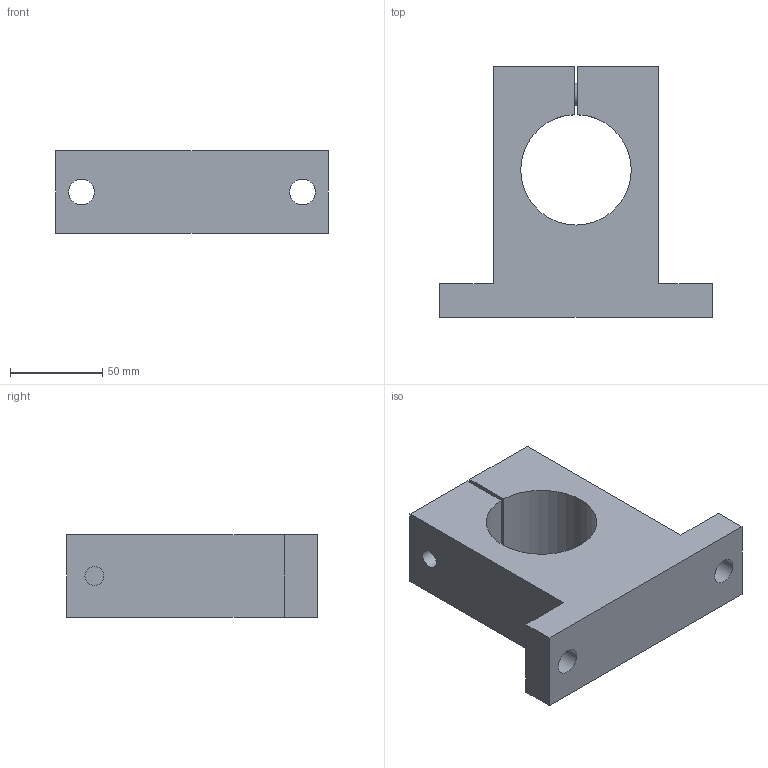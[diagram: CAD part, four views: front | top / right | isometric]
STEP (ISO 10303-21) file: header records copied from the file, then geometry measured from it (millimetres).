
FILE_DESCRIPTION(('STEP AP203'),'1');
FILE_NAME('//192.168.1.1/share/s-4 技術開発/s-4-14_個人別フォルダ/橋詰/09_CAD_DATA/3D/HP用/3Ｄモデル/SN-A/SN-60A.step','2021-09-16T02:48:02',(' '),(' '),'Spatial InterOp 3D',' ',' ');
FILE_SCHEMA(('CONFIG_CONTROL_DESIGN'));
Length unit declared in the file: millimetre
Products named in the file (2): 1; 2
Bounding box: 148 x 136 x 45 mm (x, y, z)
Volume: 457786 mm3; surface area: 64176.2 mm2
Topology: 2 solids, 2 shells, 34 faces, 84 edges, 57 vertices
Faces by surface type: plane 24, cylinder 9, cone 1
Full cylindrical faces by diameter (mm): 10.25 x1, 12 x2, 14 x3, 18 x1, 20 x1
Entity records: 1054 total; most frequent: CARTESIAN_POINT 191, DIRECTION 158, ORIENTED_EDGE 140, EDGE_CURVE 70, EDGE_LOOP 54, AXIS2_PLACEMENT_3D 53, VERTEX_POINT 52, LINE 52
